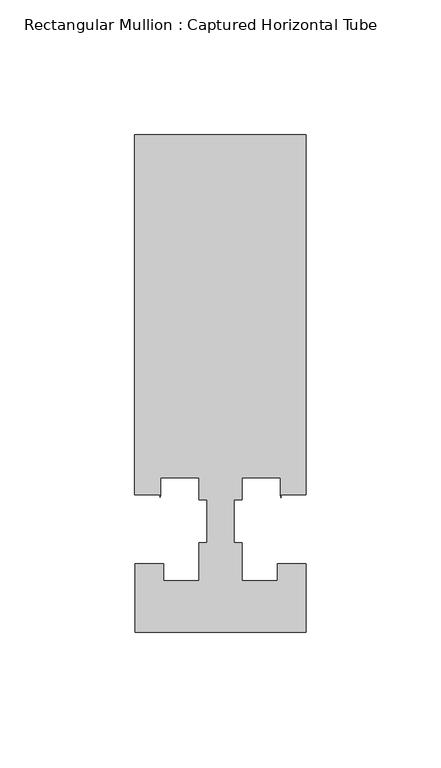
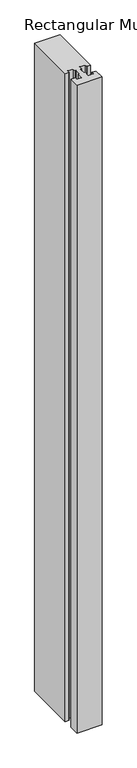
"""IFC4 building model written with IfcOpenShell, lengths in millimetres: member geometry, Rectangular Mullion : Captured Horizontal Tube."""

from ifc_helpers import new_model, si_unit, frame, origin, place, context, project, spatial, polyline, outline, extrude, source, transform, mapped, element, save


def rectangular_mullion_captured_horizontal_tube_f31e0b34(model_context):
    return source(origin(), model_context, "Body", "SweptSolid", [
        extrude(outline(polyline([(31.7705663, 114.3), (31.7705663, -18.933673), (22.3913824, -18.933673), (22.3913824, -20.0839351), (22.2251125, -18.933673), (22.2251125, -12.7), (8.0416658, -12.7), (8.0416658, -20.8793999), (4.988785, -20.8793999), (4.988785, -36.6491027), (7.9374472, -36.6491027), (7.9374472, -50.8001709), (21.0845479, -50.8001709), (21.0845479, -44.4245655), (31.7705663, -44.4245655), (31.7705663, -69.8502416), (-31.7294337, -69.8502416), (-31.7294337, -44.4247364), (-21.0270883, -44.4247364), (-21.0270883, -50.8001709), (-7.9375539, -50.8001709), (-7.9375539, -36.6491027), (-4.9639474, -36.6491027), (-4.9639474, -20.8793999), (-7.9375542, -20.8793999), (-7.9375542, -12.7), (-22.2250091, -12.7), (-22.2250091, -18.948961), (-22.4113151, -19.8905485), (-22.4113151, -18.9488461), (-31.75, -18.9488461), (-31.75, 114.3), (31.7705663, 114.3)])), frame((0.0, 0.0, -1727.2), z_axis=(0.0, 0.0, 1.0), x_axis=(1.0, 0.0, 0.0)), (0.0, 0.0, 1.0), 1727.2),
    ])


if __name__ == "__main__":
    model = new_model("IFC4")
    model_context = context("Model", 3, world=origin())
    ifc_project = project(units=[si_unit("LENGTHUNIT", "METRE", prefix="MILLI")], contexts=[model_context])
    site = spatial("IfcSite", under=ifc_project)
    building = spatial("IfcBuilding", under=site)
    placement = place(None, origin())
    rectangular_mullion_captured_horizontal_tube_shape = rectangular_mullion_captured_horizontal_tube_f31e0b34(model_context)
    element("IfcMember", 1, ObjectType="Rectangular Mullion : Captured Horizontal Tube", at=placement, inside=building, context=model_context, shape_type="MappedRepresentation", body=[
        mapped(rectangular_mullion_captured_horizontal_tube_shape, transform((0.0, 0.0, 0.0), x_axis=(1.0, 0.0, 0.0), y_axis=(0.0, 1.0, 0.0), z_axis=(0.0, 0.0, 1.0))),
    ])
    save(model, "model.ifc")
